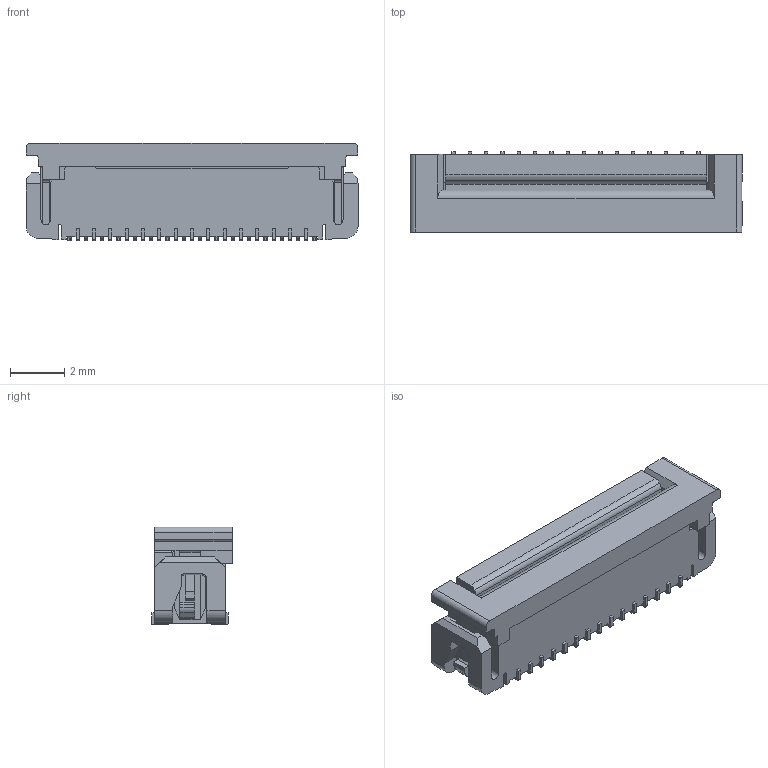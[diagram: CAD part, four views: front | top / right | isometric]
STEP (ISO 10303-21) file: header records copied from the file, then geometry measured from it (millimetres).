
FILE_DESCRIPTION (( 'STEP AP214' ), '1' );
FILE_NAME ('006841031000.STEP', '2023-02-28T07:19:46', ( '' ), ( '' ), 'SwSTEP 2.0', 'SolidWorks 2021', '' );
FILE_SCHEMA (( 'AUTOMOTIVE_DESIGN' ));
Length unit declared in the file: millimetre
Products named in the file (1): 006841031000
Bounding box: 12.2 x 2.95 x 3.6 mm (x, y, z)
Volume: 92.8 mm3; surface area: 329 mm2
Topology: 1 solids, 1 shells, 545 faces, 1776 edges, 1219 vertices
Faces by surface type: plane 391, cylinder 154
Entity records: 19707 total; most frequent: CARTESIAN_POINT 3992, ORIENTED_EDGE 3552, DIRECTION 3003, EDGE_CURVE 1776, LINE 1367, VECTOR 1367, VERTEX_POINT 1219, AXIS2_PLACEMENT_3D 818
